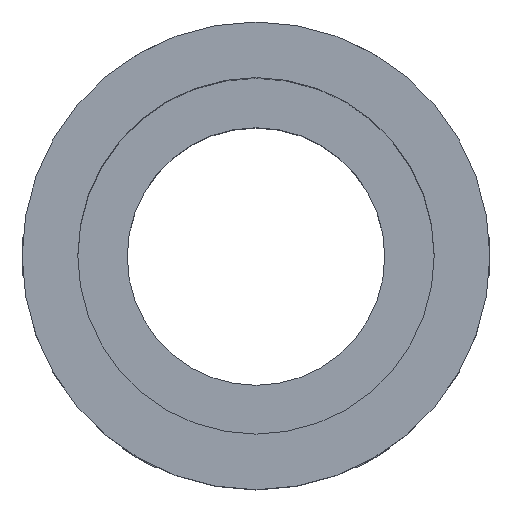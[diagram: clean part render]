
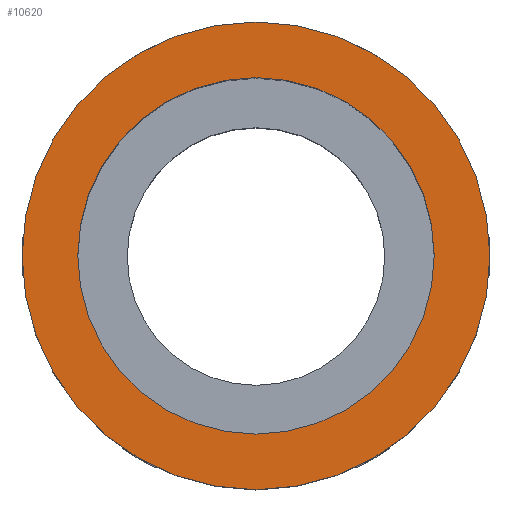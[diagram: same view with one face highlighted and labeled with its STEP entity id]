
A CAD part, top view. The second image highlights one B-rep face of the part: STEP entity #10620.
In plain terms, the highlighted planar face has unit normal (0, 0, 1) as drawn and (-1, 0, 0) by its records, which use the part's own axes.
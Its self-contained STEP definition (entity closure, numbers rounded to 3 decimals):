
#9870=CARTESIAN_POINT('',(-44.548,-42.7,0.));
#9880=VERTEX_POINT('',#9870);
#9980=CARTESIAN_POINT('',(-44.548,2.7,0.));
#9990=VERTEX_POINT('',#9980);
#10020=CARTESIAN_POINT('',(-44.548,-20.,0.));
#10030=DIRECTION('',(-1.,0.,0.));
#10040=DIRECTION('',(0.,1.,0.));
#10050=AXIS2_PLACEMENT_3D('',#10020,#10030,#10040);
#10060=CIRCLE('',#10050,22.7);
#10070=EDGE_CURVE('',#9990,#9880,#10060,.T.);
#10370=CARTESIAN_POINT('',(-44.548,-41.3,0.));
#10380=DIRECTION('',(-1.,0.,0.));
#10390=DIRECTION('',(0.,1.,0.));
#10400=AXIS2_PLACEMENT_3D('',#10370,#10380,#10390);
#10410=PLANE('',#10400);
#10420=CARTESIAN_POINT('',(-44.548,-20.,0.));
#10430=DIRECTION('',(1.,0.,0.));
#10440=DIRECTION('',(0.,0.,1.));
#10450=AXIS2_PLACEMENT_3D('',#10420,#10430,#10440);
#10460=CIRCLE('',#10450,17.3);
#10470=CARTESIAN_POINT('',(-44.548,-20.,-17.3));
#10480=VERTEX_POINT('',#10470);
#10490=CARTESIAN_POINT('',(-44.548,-20.,17.3));
#10500=VERTEX_POINT('',#10490);
#10510=EDGE_CURVE('',#10480,#10500,#10460,.T.);
#10520=ORIENTED_EDGE('',*,*,#10510,.T.);
#10530=EDGE_CURVE('',#10500,#10480,#10460,.T.);
#10540=ORIENTED_EDGE('',*,*,#10530,.T.);
#10550=EDGE_LOOP('',(#10540,#10520));
#10560=FACE_BOUND('',#10550,.T.);
#10570=EDGE_CURVE('',#9880,#9990,#10060,.T.);
#10580=ORIENTED_EDGE('',*,*,#10570,.T.);
#10590=ORIENTED_EDGE('',*,*,#10070,.T.);
#10600=EDGE_LOOP('',(#10590,#10580));
#10610=FACE_OUTER_BOUND('',#10600,.T.);
#10620=ADVANCED_FACE('',(#10560,#10610),#10410,.T.);
